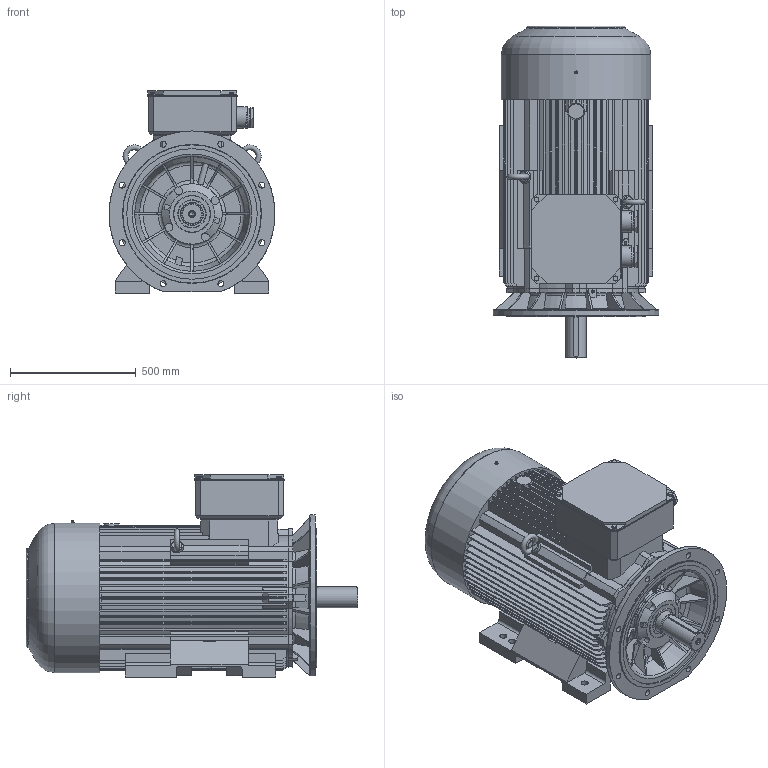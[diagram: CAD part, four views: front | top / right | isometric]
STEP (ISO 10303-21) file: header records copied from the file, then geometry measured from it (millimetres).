
FILE_DESCRIPTION( ( 'Unknown' ), '1' );
FILE_NAME( 'C:/Documents and Settings/kwalica/Pulpit/2,3 SIE paczka/3SIE 315/STP/3SIEL315_M4C_M6C.stp', 'Unknown', ( 'Unknown' ), ( 'Unknown' ), 'XStep 1.0', 'Unknown', ' ' );
FILE_SCHEMA( ( 'CONFIG_CONTROL_DESIGN' ) );
Length unit declared in the file: millimetre
Products named in the file (6): 1; 2; 3; 4; 5; 6
Bounding box: 660 x 1320 x 804.5 mm (x, y, z)
Volume: 289615827.2 mm3; surface area: 7509603 mm2
Topology: 6 solids, 22 shells, 1433 faces, 3905 edges, 2571 vertices
Faces by surface type: plane 891, cylinder 299, cone 121, torus 106, bspline 16
Full cylindrical faces by diameter (mm): 1.6 x2, 5 x4, 10.106 x4, 13.835 x1, 16.63 x4, 17.294 x1, 20 x1, 21 x1, 24 x12, 28 x6, 50 x2, 55 x2, 57 x4, 65 x4, 70 x2, 71 x6, 72 x2, 72.752 x2, 76 x2, 79.999 x1, 85 x2, 89.5 x1, 90 x1, 99.4 x1, 100 x1, 111.399 x1, 112 x1, 119.4 x1, 119.999 x1, 131.399 x1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
Entity records: 54325 total; most frequent: CARTESIAN_POINT 18758, ORIENTED_EDGE 7402, DIRECTION 7098, EDGE_CURVE 3701, VERTEX_POINT 2514, AXIS2_PLACEMENT_3D 2439, LINE 2220, VECTOR 2220
